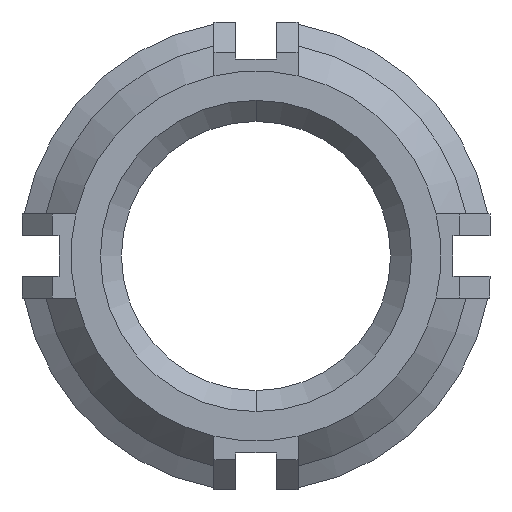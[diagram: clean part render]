
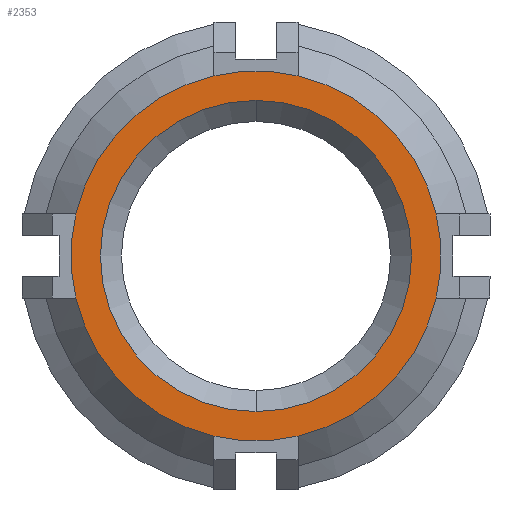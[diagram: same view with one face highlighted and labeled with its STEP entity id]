
A CAD part, front view. The second image highlights one B-rep face of the part: STEP entity #2353.
In plain terms, the highlighted planar face has unit normal (0, -1, 0).
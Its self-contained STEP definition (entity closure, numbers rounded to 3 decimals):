
#38 = ORIENTED_EDGE ( 'NONE', *, *, #2196, .T. ) ;
#47 = EDGE_CURVE ( 'NONE', #505, #2962, #4958, .T. ) ;
#68 = AXIS2_PLACEMENT_3D ( 'NONE', #4552, #602, #1791 ) ;
#101 = VERTEX_POINT ( 'NONE', #226 ) ;
#113 = CARTESIAN_POINT ( 'NONE',  ( 0., -14., 4.625 ) ) ;
#124 = DIRECTION ( 'NONE',  ( 0., -1., 0. ) ) ;
#149 = CARTESIAN_POINT ( 'NONE',  ( 1.25, -14., 5.356 ) ) ;
#171 = AXIS2_PLACEMENT_3D ( 'NONE', #3333, #2888, #3298 ) ;
#226 = CARTESIAN_POINT ( 'NONE',  ( -5.356, -14., -1.25 ) ) ;
#268 = DIRECTION ( 'NONE',  ( 0., -1., 0. ) ) ;
#505 = VERTEX_POINT ( 'NONE', #113 ) ;
#567 = DIRECTION ( 'NONE',  ( 0., 0., 1. ) ) ;
#602 = DIRECTION ( 'NONE',  ( 0., -1., 0. ) ) ;
#618 = CIRCLE ( 'NONE', #1986, 5.5 ) ;
#740 = CIRCLE ( 'NONE', #171, 5.5 ) ;
#897 = DIRECTION ( 'NONE',  ( 0., 0., 1. ) ) ;
#999 = DIRECTION ( 'NONE',  ( 0., -1., 0. ) ) ;
#1022 = EDGE_CURVE ( 'NONE', #2051, #5290, #1278, .T. ) ;
#1057 = DIRECTION ( 'NONE',  ( 0., 0., -1. ) ) ;
#1123 = DIRECTION ( 'NONE',  ( -1., 0., 0. ) ) ;
#1210 = DIRECTION ( 'NONE',  ( 0., 0., 1. ) ) ;
#1278 = CIRCLE ( 'NONE', #3120, 5.5 ) ;
#1283 = CIRCLE ( 'NONE', #2186, 5.5 ) ;
#1350 = ORIENTED_EDGE ( 'NONE', *, *, #47, .T. ) ;
#1369 = CARTESIAN_POINT ( 'NONE',  ( -1.25, -14., 5.356 ) ) ;
#1433 = VERTEX_POINT ( 'NONE', #4444 ) ;
#1791 = DIRECTION ( 'NONE',  ( 0., 0., 1. ) ) ;
#1839 = EDGE_CURVE ( 'NONE', #3894, #1942, #618, .T. ) ;
#1942 = VERTEX_POINT ( 'NONE', #3359 ) ;
#1986 = AXIS2_PLACEMENT_3D ( 'NONE', #4080, #999, #1057 ) ;
#2019 = DIRECTION ( 'NONE',  ( 0., 0., 1. ) ) ;
#2051 = VERTEX_POINT ( 'NONE', #3441 ) ;
#2084 = CIRCLE ( 'NONE', #4119, 5.5 ) ;
#2113 = ORIENTED_EDGE ( 'NONE', *, *, #3916, .T. ) ;
#2174 = CARTESIAN_POINT ( 'NONE',  ( 5.356, -14., -1.25 ) ) ;
#2186 = AXIS2_PLACEMENT_3D ( 'NONE', #2461, #268, #2019 ) ;
#2196 = EDGE_CURVE ( 'NONE', #1433, #101, #2084, .T. ) ;
#2204 = ORIENTED_EDGE ( 'NONE', *, *, #1839, .T. ) ;
#2212 = CARTESIAN_POINT ( 'NONE',  ( 0., -14., 0. ) ) ;
#2261 = EDGE_LOOP ( 'NONE', ( #2113, #1350 ) ) ;
#2353 = ADVANCED_FACE ( 'NONE', ( #2625, #4356 ), #4380, .F. ) ;
#2458 = AXIS2_PLACEMENT_3D ( 'NONE', #5492, #4515, #567 ) ;
#2461 = CARTESIAN_POINT ( 'NONE',  ( 0., -14., 0. ) ) ;
#2508 = ORIENTED_EDGE ( 'NONE', *, *, #1022, .T. ) ;
#2523 = EDGE_CURVE ( 'NONE', #3193, #1433, #4312, .T. ) ;
#2561 = CARTESIAN_POINT ( 'NONE',  ( 0., -14., 0. ) ) ;
#2625 = FACE_BOUND ( 'NONE', #2261, .T. ) ;
#2852 = AXIS2_PLACEMENT_3D ( 'NONE', #5416, #124, #5366 ) ;
#2888 = DIRECTION ( 'NONE',  ( 0., -1., 0. ) ) ;
#2897 = ORIENTED_EDGE ( 'NONE', *, *, #2523, .T. ) ;
#2962 = VERTEX_POINT ( 'NONE', #4137 ) ;
#3024 = EDGE_CURVE ( 'NONE', #5290, #3894, #1283, .T. ) ;
#3038 = CARTESIAN_POINT ( 'NONE',  ( 0., -14., 0. ) ) ;
#3120 = AXIS2_PLACEMENT_3D ( 'NONE', #3345, #5077, #1123 ) ;
#3193 = VERTEX_POINT ( 'NONE', #1369 ) ;
#3209 = DIRECTION ( 'NONE',  ( 0., 0., 1. ) ) ;
#3298 = DIRECTION ( 'NONE',  ( 0., 0., 1. ) ) ;
#3333 = CARTESIAN_POINT ( 'NONE',  ( 0., -14., 0. ) ) ;
#3345 = CARTESIAN_POINT ( 'NONE',  ( 0., -14., 0. ) ) ;
#3359 = CARTESIAN_POINT ( 'NONE',  ( 5.356, -14., 1.25 ) ) ;
#3406 = CIRCLE ( 'NONE', #5160, 4.625 ) ;
#3441 = CARTESIAN_POINT ( 'NONE',  ( -1.25, -14., -5.356 ) ) ;
#3655 = CARTESIAN_POINT ( 'NONE',  ( 1.25, -14., -5.356 ) ) ;
#3709 = DIRECTION ( 'NONE',  ( 0., -1., 0. ) ) ;
#3894 = VERTEX_POINT ( 'NONE', #2174 ) ;
#3916 = EDGE_CURVE ( 'NONE', #2962, #505, #3406, .T. ) ;
#4005 = EDGE_CURVE ( 'NONE', #5327, #3193, #4511, .T. ) ;
#4080 = CARTESIAN_POINT ( 'NONE',  ( 0., -14., 0. ) ) ;
#4119 = AXIS2_PLACEMENT_3D ( 'NONE', #3038, #5379, #3209 ) ;
#4136 = CIRCLE ( 'NONE', #4884, 5.5 ) ;
#4137 = CARTESIAN_POINT ( 'NONE',  ( 0., -14., -4.625 ) ) ;
#4202 = EDGE_CURVE ( 'NONE', #101, #2051, #4136, .T. ) ;
#4223 = CARTESIAN_POINT ( 'NONE',  ( 0., -14., 0. ) ) ;
#4312 = CIRCLE ( 'NONE', #68, 5.5 ) ;
#4356 = FACE_OUTER_BOUND ( 'NONE', #5246, .T. ) ;
#4380 = PLANE ( 'NONE',  #5139 ) ;
#4444 = CARTESIAN_POINT ( 'NONE',  ( -5.356, -14., 1.25 ) ) ;
#4511 = CIRCLE ( 'NONE', #2852, 5.5 ) ;
#4515 = DIRECTION ( 'NONE',  ( 0., 1., 0. ) ) ;
#4552 = CARTESIAN_POINT ( 'NONE',  ( 0., -14., 0. ) ) ;
#4610 = EDGE_CURVE ( 'NONE', #1942, #5327, #740, .T. ) ;
#4675 = ORIENTED_EDGE ( 'NONE', *, *, #3024, .T. ) ;
#4784 = DIRECTION ( 'NONE',  ( 0., 1., 0. ) ) ;
#4884 = AXIS2_PLACEMENT_3D ( 'NONE', #4223, #3709, #5473 ) ;
#4958 = CIRCLE ( 'NONE', #2458, 4.625 ) ;
#5077 = DIRECTION ( 'NONE',  ( 0., -1., 0. ) ) ;
#5101 = ORIENTED_EDGE ( 'NONE', *, *, #4005, .T. ) ;
#5139 = AXIS2_PLACEMENT_3D ( 'NONE', #2212, #5169, #897 ) ;
#5160 = AXIS2_PLACEMENT_3D ( 'NONE', #2561, #4784, #1210 ) ;
#5169 = DIRECTION ( 'NONE',  ( 0., 1., 0. ) ) ;
#5246 = EDGE_LOOP ( 'NONE', ( #38, #5531, #2508, #4675, #2204, #5251, #5101, #2897 ) ) ;
#5251 = ORIENTED_EDGE ( 'NONE', *, *, #4610, .T. ) ;
#5290 = VERTEX_POINT ( 'NONE', #3655 ) ;
#5327 = VERTEX_POINT ( 'NONE', #149 ) ;
#5366 = DIRECTION ( 'NONE',  ( 1., 0., 0. ) ) ;
#5379 = DIRECTION ( 'NONE',  ( 0., -1., 0. ) ) ;
#5416 = CARTESIAN_POINT ( 'NONE',  ( 0., -14., 0. ) ) ;
#5473 = DIRECTION ( 'NONE',  ( 0., 0., 1. ) ) ;
#5492 = CARTESIAN_POINT ( 'NONE',  ( 0., -14., 0. ) ) ;
#5531 = ORIENTED_EDGE ( 'NONE', *, *, #4202, .T. ) ;
